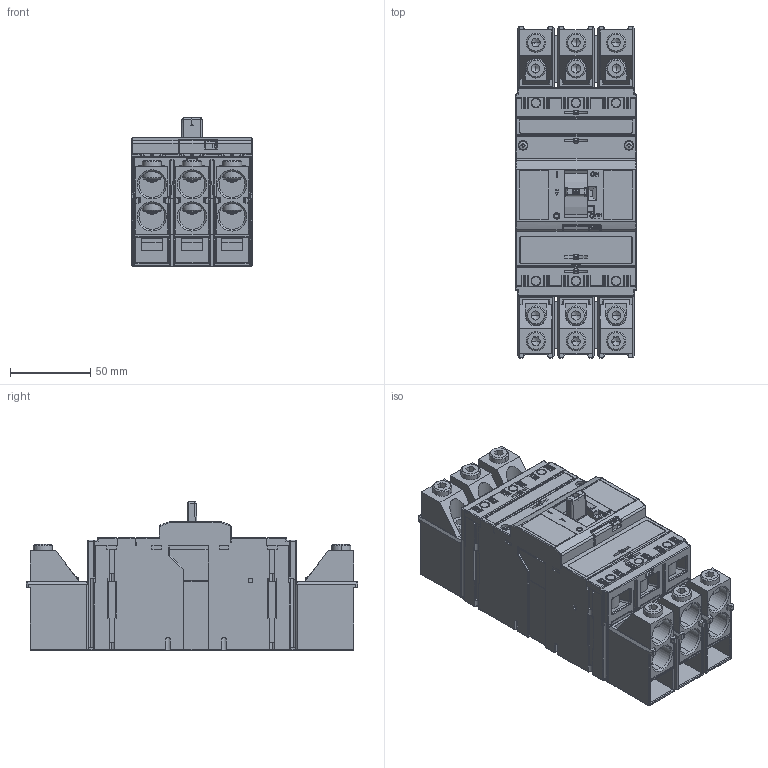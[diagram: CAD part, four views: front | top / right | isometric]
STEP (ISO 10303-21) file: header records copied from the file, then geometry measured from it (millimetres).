
FILE_DESCRIPTION (( 'STEP AP214' ), '1' );
FILE_NAME ('BC160NT305__CS-BC-B021_fin.step', '2013-05-20T10:51:11', ( '' ), ( '' ), 'SwSTEP 2.0', 'SolidWorks 2011', '' );
FILE_SCHEMA (( 'AUTOMOTIVE_DESIGN' ));
Length unit declared in the file: millimetre
Products named in the file (1): BC160NT305__CS-BC-B021_fin
Bounding box: 75 x 207 x 92.5 mm (x, y, z)
Volume: 778758.1 mm3; surface area: 223936.1 mm2
Topology: 11 solids, 11 shells, 5285 faces, 14232 edges, 9035 vertices
Faces by surface type: plane 3020, cylinder 1624, torus 286, cone 202, bspline 103, sphere 50
Entity records: 231544 total; most frequent: CARTESIAN_POINT 42407, ORIENTED_EDGE 28314, DIRECTION 26049, EDGE_CURVE 14157, VECTOR 9769, LINE 9769, VERTEX_POINT 9032, AXIS2_PLACEMENT_3D 8140
